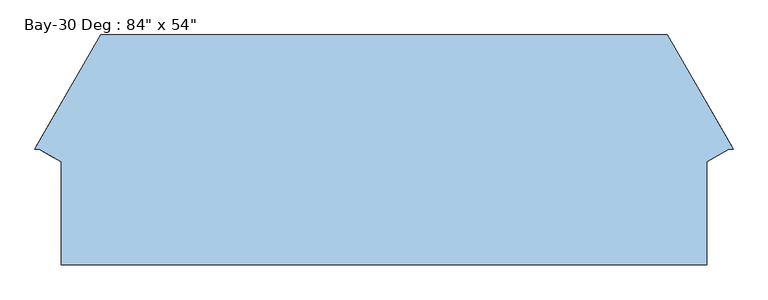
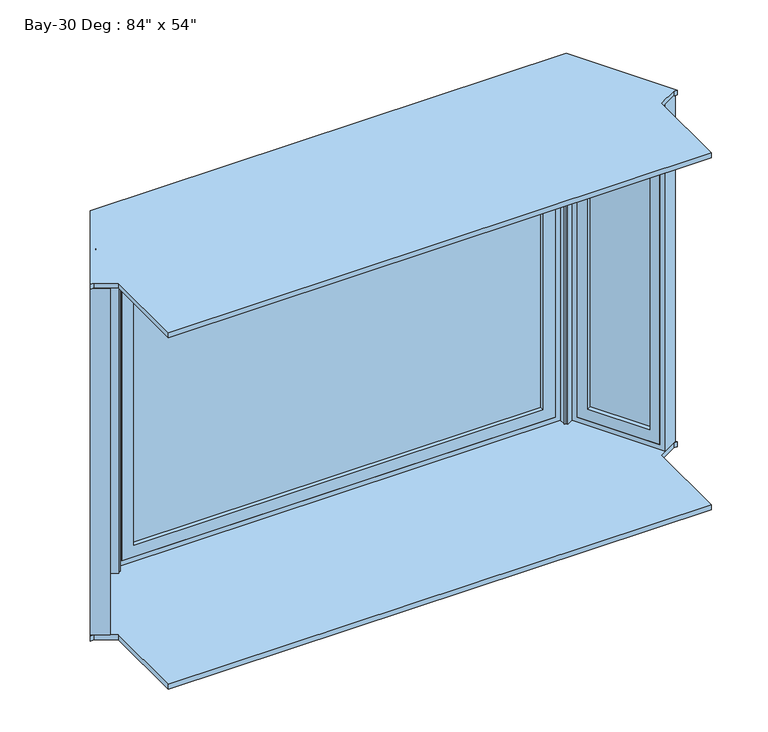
"""IFC4 building model written with IfcOpenShell, lengths in millimetres: window geometry."""

from ifc_helpers import new_model, si_unit, frame, origin, place, context, project, spatial, polyline, outline, extrude, faceted_brep, source, transform, mapped, element, save


def window_00d0273f(model_context):
    return source(origin(), model_context, "Body", "SolidModel", [
        extrude(outline(polyline([(-887.2967258, 398.2513467), (-991.3328488, 213.0480242), (-1002.4671763, 219.3984341), (-898.2859818, 404.6017566), (-887.2967258, 398.2513467)])), frame((0.0, 0.0, 844.55), z_axis=(0.0, 0.0, 1.0), x_axis=(1.0, 0.0, 0.0)), (0.0, 0.0, 1.0), 1206.5),
        faceted_brep([(-999.4704504, 166.6434337, 800.1), (-1037.8348882, 188.7931522, 800.1), (-890.2349709, 451.2871422, 800.1), (-851.7455625, 429.0652719, 800.1), (-999.4704504, 166.6434337, 2095.5), (-1037.8348882, 188.7931522, 2095.5), (-890.2349709, 451.2871422, 2095.5), (-912.0225519, 412.539769, 2051.05), (-1016.2162171, 227.2401332, 2051.05), (-1016.2162171, 227.2401332, 844.55), (-912.0225519, 412.539769, 844.55), (-851.7455625, 429.0652719, 2095.5), (-977.7189028, 205.2833758, 2051.05), (-873.5601557, 390.3133342, 2051.05), (-873.5601557, 390.3133342, 844.55), (-977.7189028, 205.2833758, 844.55)], [[[0, 1, 2, 3]], [[4, 5, 1, 0]], [[5, 6, 2, 1], [7, 8, 9, 10]], [[6, 11, 3, 2]], [[11, 4, 0, 3], [12, 13, 14, 15]], [[13, 7, 10, 14]], [[9, 15, 14, 10]], [[8, 12, 15, 9]], [[4, 11, 6, 5]], [[7, 13, 12, 8]]]),
        extrude(outline(polyline([(881.2805271, 402.2073869), (892.2790497, 408.5573869), (1004.8421988, 213.5922935), (993.7831258, 207.3471699), (881.2805271, 402.2073869)])), frame((0.0, 0.0, 844.55), z_axis=(0.0, 0.0, 1.0), x_axis=(1.0, 0.0, 0.0)), (0.0, 0.0, 1.0), 1206.5),
        faceted_brep([(848.4823738, 427.2654548, 800.1), (886.977203, 449.4904548, 800.1), (1037.5479962, 188.6941908, 800.1), (998.8412405, 166.8362582, 800.1), (848.4823738, 427.2654548, 2095.5), (886.977203, 449.4904548, 2095.5), (1037.5479962, 188.6941908, 2095.5), (1018.6660402, 221.398698, 2051.05), (906.027203, 416.4948869, 2051.05), (906.027203, 416.4948869, 844.55), (1018.6660402, 221.398698, 844.55), (998.8412405, 166.8362582, 2095.5), (867.5323738, 394.2698869, 2051.05), (979.9592845, 199.5407654, 2051.05), (979.9592845, 199.5407654, 844.55), (867.5323738, 394.2698869, 844.55)], [[[0, 1, 2, 3]], [[4, 5, 1, 0]], [[5, 6, 2, 1], [7, 8, 9, 10]], [[6, 11, 3, 2]], [[11, 4, 0, 3], [12, 13, 14, 15]], [[13, 7, 10, 14]], [[14, 10, 9, 15]], [[8, 12, 15, 9]], [[4, 11, 6, 5]], [[12, 8, 7, 13]]]),
        faceted_brep([(-894.0594169, 475.4922324, 781.05), (-842.4001218, 445.6667245, 781.05), (-1008.599634, 150.4261453, 781.05), (-1063.7201827, 181.631166, 781.05), (-894.0594169, 475.4922324, 2114.55), (-842.4001218, 445.6667245, 2114.55), (-1008.599634, 150.4261453, 2114.55), (-999.4704504, 166.6434337, 2095.5), (-851.7455625, 429.0652719, 2095.5), (-851.7455625, 429.0652719, 800.1), (-999.4704504, 166.6434337, 800.1), (-1063.7201827, 181.631166, 2114.55), (-903.5844169, 458.9944485, 2095.5), (-1054.1476281, 198.211317, 2095.5), (-1054.1476281, 198.211317, 800.1), (-903.5844169, 458.9944485, 800.1)], [[[0, 1, 2, 3]], [[4, 5, 1, 0]], [[5, 6, 2, 1], [7, 8, 9, 10]], [[6, 11, 3, 2]], [[11, 4, 0, 3], [12, 13, 14, 15]], [[13, 7, 10, 14]], [[14, 10, 9, 15]], [[8, 12, 15, 9]], [[4, 11, 6, 5]], [[12, 8, 7, 13]]]),
        faceted_brep([(1063.6562069, 181.5734434, 781.05), (1008.3948745, 150.2888788, 781.05), (838.9573738, 443.7632387, 781.05), (893.9499869, 475.5132387, 781.05), (1063.6562069, 181.5734434, 2114.55), (1008.3948745, 150.2888788, 2114.55), (838.9573738, 443.7632387, 2114.55), (848.4823738, 427.2654548, 2095.5), (998.8412405, 166.8362582, 2095.5), (998.8412405, 166.8362582, 800.1), (848.4823738, 427.2654548, 800.1), (893.9499869, 475.5132387, 2114.55), (1054.1366058, 198.0618762, 2095.5), (903.4749869, 459.0154548, 2095.5), (903.4749869, 459.0154548, 800.1), (1054.1366058, 198.0618762, 800.1)], [[[0, 1, 2, 3]], [[4, 5, 1, 0]], [[5, 6, 2, 1], [7, 8, 9, 10]], [[6, 11, 3, 2]], [[11, 4, 0, 3], [12, 13, 14, 15]], [[9, 15, 14, 10]], [[13, 7, 10, 14]], [[8, 12, 15, 9]], [[4, 11, 6, 5]], [[7, 13, 12, 8]]]),
        extrude(outline(polyline([(743.9353284, 476.8453125), (-744.03263, 476.8453125), (-744.03263, 489.6227448), (743.9353284, 489.6227448), (743.9353284, 476.8453125)])), frame((0.0, 0.0, 844.55), z_axis=(0.0, 0.0, 1.0), x_axis=(1.0, 0.0, 0.0)), (0.0, 0.0, 1.0), 1206.5),
        extrude(outline(polyline([(2095.5, -788.48263), (800.1, -788.48263), (800.1, 788.3853284), (2095.5, 788.3853284), (2095.5, -788.48263)]), holes=[polyline([(2051.05, -744.03263), (2051.05, 743.9353284), (844.55, 743.9353284), (844.55, -744.03263), (2051.05, -744.03263)])]), frame((0.0, 461.9625, 0.0), z_axis=(0.0, 1.0, 0.0), x_axis=(0.0, 0.0, 1.0)), (0.0, 0.0, 1.0), 44.45),
        extrude(outline(polyline([(2114.55, -807.53263), (781.05, -807.53263), (781.05, 807.4353284), (2114.55, 807.4353284), (2114.55, -807.53263)]), holes=[polyline([(2095.5, -788.48263), (2095.5, 788.3853284), (800.1, 788.3853284), (800.1, -788.48263), (2095.5, -788.48263)])]), frame((0.0, 461.9625, 0.0), z_axis=(0.0, 1.0, 0.0), x_axis=(0.0, 0.0, 1.0)), (0.0, 0.0, 1.0), 63.5),
        extrude(outline(polyline([(-807.53263, 525.4625), (-807.53263, 436.5625), (-813.88263, 436.5625), (-817.0697581, 431.0422322), (-894.0594169, 475.4922324), (-865.2090695, 525.4625), (-807.53263, 525.4625)])), frame((0.0, 0.0, 781.05), z_axis=(0.0, 0.0, 1.0), x_axis=(1.0, 0.0, 0.0)), (0.0, 0.0, 1.0), 1333.5),
        extrude(outline(polyline([(893.9499869, 475.5132387), (816.9603284, 431.0632387), (813.7853284, 436.5625), (807.4353284, 436.5625), (807.4353284, 525.4625), (865.1117675, 525.4625), (893.9499869, 475.5132387)])), frame((0.0, 0.0, 781.05), z_axis=(0.0, 0.0, 1.0), x_axis=(1.0, 0.0, 0.0)), (0.0, 0.0, 1.0), 1333.5),
        extrude(outline(polyline([(-986.848811, -176.2125), (-986.848811, 138.1125), (-1054.148651, 176.2125), (-1066.848651, 176.2125), (-865.2090695, 525.4625), (865.1117675, 525.4625), (1066.751349, 176.2125), (1054.1865889, 176.2125), (986.751509, 138.0361292), (986.751509, -176.2125), (-986.848811, -176.2125)])), frame((0.0, 0.0, 762.0), z_axis=(0.0, 0.0, 1.0), x_axis=(1.0, 0.0, 0.0)), (0.0, 0.0, 1.0), 19.05),
        extrude(outline(polyline([(-986.848811, -176.2125), (-986.848811, 138.1125), (-1054.148651, 176.2125), (-1066.848651, 176.2125), (-865.2090695, 525.4625), (865.1117675, 525.4625), (1066.751349, 176.2125), (1054.1865889, 176.2125), (986.751509, 138.0361292), (986.751509, -176.2125), (-986.848811, -176.2125)])), frame((0.0, 0.0, 2114.55), z_axis=(0.0, 0.0, 1.0), x_axis=(1.0, 0.0, 0.0)), (0.0, 0.0, 1.0), 19.05),
    ])


if __name__ == "__main__":
    model = new_model("IFC4")
    model_context = context("Model", 3, world=origin())
    ifc_project = project(units=[si_unit("LENGTHUNIT", "METRE", prefix="MILLI")], contexts=[model_context])
    site = spatial("IfcSite", under=ifc_project)
    building = spatial("IfcBuilding", under=site)
    placement = place(None, origin())
    window_shape = window_00d0273f(model_context)
    element("IfcWindow", 1, ObjectType="Bay-30 Deg : 84\" x 54\"", at=placement, inside=building, context=model_context, shape_type="MappedRepresentation", body=[
        mapped(window_shape, transform((0.0, 0.0, 0.0), x_axis=(1.0, 0.0, 0.0), y_axis=(0.0, 1.0, 0.0), z_axis=(0.0, 0.0, 1.0))),
    ])
    save(model, "model.ifc")
